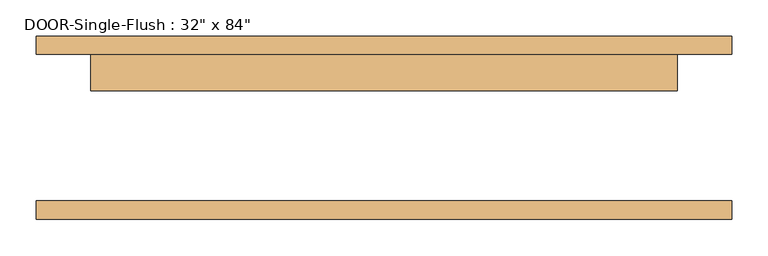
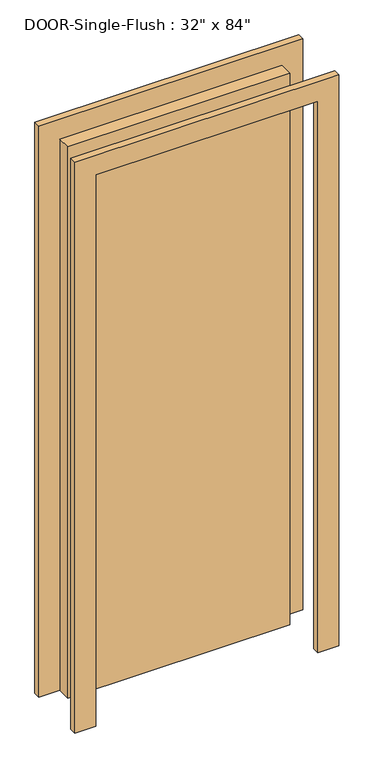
"""IFC4 building model written with IfcOpenShell, lengths in millimetres: door geometry."""

from ifc_helpers import new_model, si_unit, frame, origin, origin_with_axes, place, context, project, spatial, polyline, outline, extrude, source, transform, mapped, element, save


def door_64d5ae29(model_context):
    return source(origin(), model_context, "Body", "SweptSolid", [
        extrude(outline(polyline([(2209.8, -482.6), (0.0, -482.6), (0.0, -406.4), (2133.6, -406.4), (2133.6, 406.4), (0.0, 406.4), (0.0, 482.6), (2209.8, 482.6), (2209.8, -482.6)])), frame((0.0, 101.6, 0.0), z_axis=(0.0, 1.0, 0.0), x_axis=(0.0, 0.0, 1.0)), (0.0, 0.0, 1.0), 25.4),
        extrude(outline(polyline([(2209.8, 482.6), (2209.8, -482.6), (0.0, -482.6), (0.0, -406.4), (2133.6, -406.4), (2133.6, 406.4), (0.0, 406.4), (0.0, 482.6), (2209.8, 482.6)])), frame((0.0, -127.0, 0.0), z_axis=(0.0, 1.0, 0.0), x_axis=(0.0, 0.0, 1.0)), (0.0, 0.0, 1.0), 25.4),
        extrude(outline(polyline([(406.4, 50.8), (-406.4, 50.8), (-406.4, 101.6), (406.4, 101.6), (406.4, 50.8)])), origin_with_axes(), (0.0, 0.0, 1.0), 2133.6),
    ])


if __name__ == "__main__":
    model = new_model("IFC4")
    model_context = context("Model", 3, world=origin())
    ifc_project = project(units=[si_unit("LENGTHUNIT", "METRE", prefix="MILLI")], contexts=[model_context])
    site = spatial("IfcSite", under=ifc_project)
    building = spatial("IfcBuilding", under=site)
    placement = place(None, origin())
    door_shape = door_64d5ae29(model_context)
    element("IfcDoor", 1, ObjectType="DOOR-Single-Flush : 32\" x 84\"", at=placement, inside=building, context=model_context, shape_type="MappedRepresentation", body=[
        mapped(door_shape, transform((0.0, 0.0, 0.0), x_axis=(1.0, 0.0, 0.0), y_axis=(0.0, 1.0, 0.0), z_axis=(0.0, 0.0, 1.0))),
    ])
    save(model, "model.ifc")
